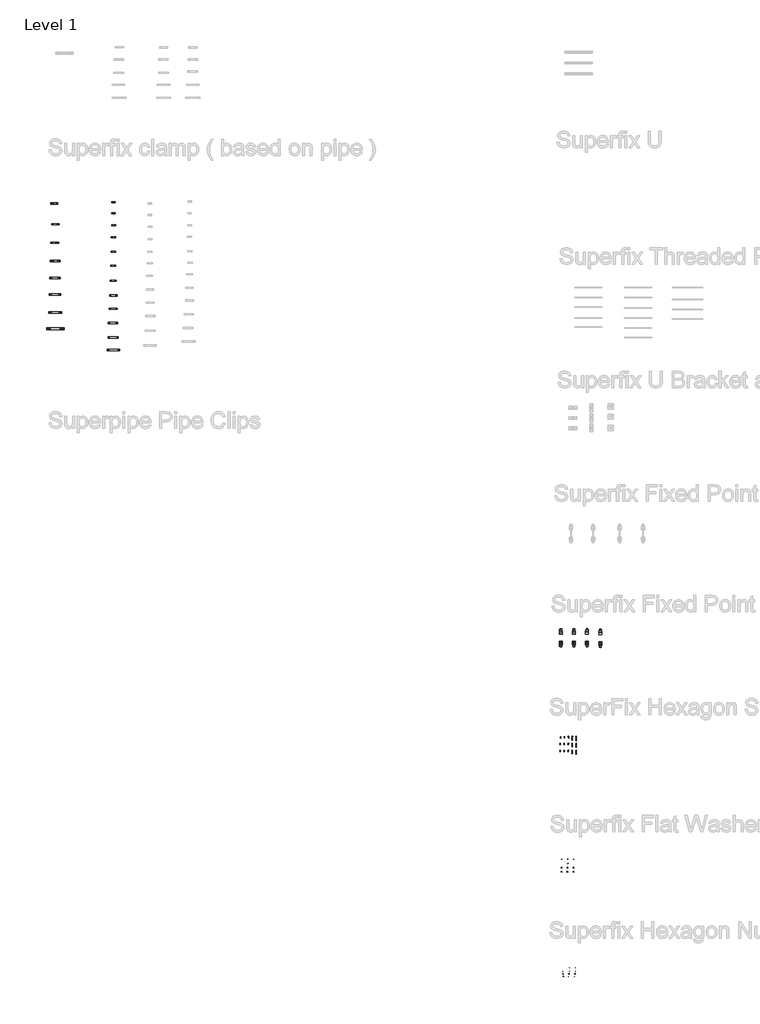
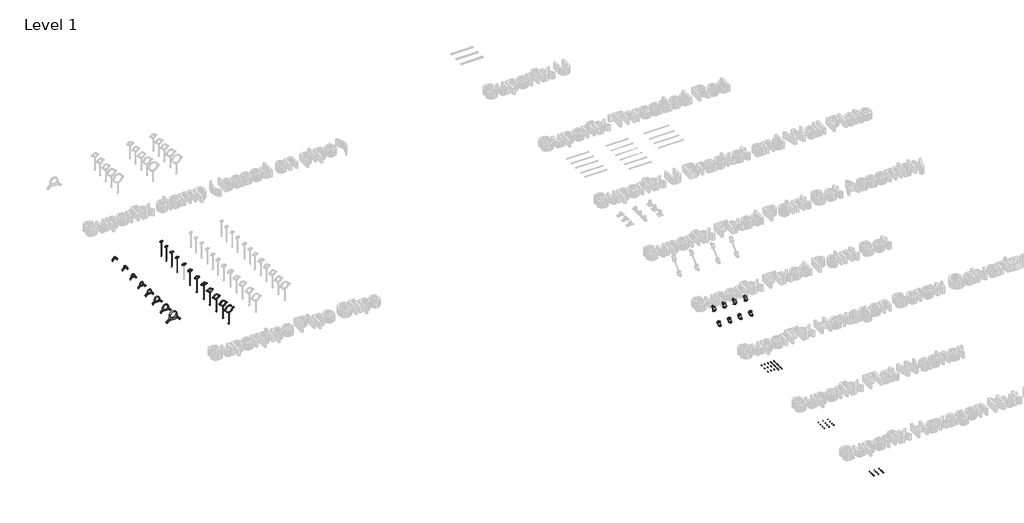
# One storey, part 1 of 32: 134 valves.
"""IFC4 building model written with IfcOpenShell, lengths in millimetres."""

from ifc_helpers import new_model, si_unit, origin, place, context, project, spatial, transform, mapped, element, save
from components import valve_ba4c3353, valve_329ff7bd, valve_242b7707, valve_2bce42df, valve_227da280, valve_86fbe129, valve_d9922134, valve_bf0c94fa, valve_156802b2, valve_8481dcae, valve_a1d0c0c7, valve_bad40d89, valve_098a9345, valve_1406b70b, valve_9e9896a5, valve_48b51991, valve_4bb747ad, valve_00879f87, valve_4dfea500, valve_dfdcf4a3, valve_42e91783, valve_76fbe92c, valve_45f2bd6e, valve_fad8a5b8, valve_cdfc1e77, valve_200e7f54, valve_540cf7b6, valve_e615a615, valve_7771d33f, valve_f58c43d9, valve_0564cfff, valve_fe5dbaab, valve_6bdfe2ac, valve_8158eccd, valve_7bf5ca46, valve_831f7485, valve_ca73bad7, hexagon_nut_galvanized_extra_m10_fcef541f, hexagon_nut_galvanized_extra_m6_d26f8cee, hexagon_nut_galvanized_extra_m8_53389388, superfix_hexagon_screw_galvanized_e39b877e, superfix_hexagon_screw_galvanized_3ef5af78, superfix_hexagon_screw_galvanized_3d7df342, superfix_hexagon_screw_galvanized_3348ddcd, superfix_hexagon_screw_galvanized_39733bb5

model = new_model("IFC4")

# Units and contexts
model_context = context("Model", 3, world=origin())
ifc_project = project(units=[si_unit("LENGTHUNIT", "METRE", prefix="MILLI")], contexts=[model_context])

# Site, building, storey
site = spatial("IfcSite", under=ifc_project)
building = spatial("IfcBuilding", under=site)
storey = spatial("IfcBuildingStorey", under=building, Name="Level 1", Elevation=0.0)

# Valves
placement = place(None, origin())
valve_shape = valve_ba4c3353(model_context)
element("IfcValve", 1, ObjectType="Superfix Fixed point set Extra : Superfix Fixed Point Set Extra M8", at=placement, inside=storey, context=model_context, shape_type="MappedRepresentation", body=[
    mapped(valve_shape, transform((-39904.8924708, 15856.5645356, 0.0), x_axis=(1.0, 0.0, 0.0), y_axis=(0.0, 1.0, 0.0), z_axis=(0.0, 0.0, 1.0))),
])
element("IfcValve", 2, ObjectType="Superfix Fixed point set Extra : Superfix Fixed Point Set Extra M10", at=placement, inside=storey, context=model_context, shape_type="MappedRepresentation", body=[
    mapped(valve_shape, transform((-39659.3870899, 15846.5645356, 0.0), x_axis=(1.0, 0.0, 0.0), y_axis=(0.0, 1.0, 0.0), z_axis=(0.0, 0.0, 1.0))),
])
element("IfcValve", 3, ObjectType="Superfix Fixed point set : Superfix Fixed Point Set M8", at=placement, inside=storey, context=model_context, shape_type="MappedRepresentation", body=[
    mapped(valve_shape, transform((-40384.724842, 15852.330252, 0.0), x_axis=(1.0, 0.0, 0.0), y_axis=(0.0, 1.0, 0.0), z_axis=(0.0, 0.0, 1.0))),
])
element("IfcValve", 4, ObjectType="Superfix Fixed point set : Superfix Fixed Point Set M10", at=placement, inside=storey, context=model_context, shape_type="MappedRepresentation", body=[
    mapped(valve_shape, transform((-40145.0429712, 15852.330252, 0.0), x_axis=(1.0, 0.0, 0.0), y_axis=(0.0, 1.0, 0.0), z_axis=(0.0, 0.0, 1.0))),
])
valve_2_shape = valve_329ff7bd(model_context)
element("IfcValve", 5, ObjectType="Superfix DG3 Clamp (based on pipe) : Superfix DG3 Clamp (based on pipe)", at=placement, inside=storey, context=model_context, shape_type="MappedRepresentation", body=[
    mapped(valve_2_shape, transform((-49655.2065836, 23582.1247132, -55.0), x_axis=(0.0, -1.0, 0.0), y_axis=(1.0, 0.0, 0.0), z_axis=(0.0, 0.0, 1.0))),
])
valve_3_shape = valve_242b7707(model_context)
element("IfcValve", 6, ObjectType="Superfix DG3 Clamp (based on pipe) : Superfix DG3 Clamp (based on pipe)", at=placement, inside=storey, context=model_context, shape_type="MappedRepresentation", body=[
    mapped(valve_3_shape, transform((-49665.8599062, 23243.0827202, -60.5), x_axis=(0.0, -1.0, 0.0), y_axis=(1.0, 0.0, 0.0), z_axis=(0.0, 0.0, 1.0))),
])
valve_4_shape = valve_2bce42df(model_context)
element("IfcValve", 7, ObjectType="Superfix DG3 Clamp (based on pipe) : Superfix DG3 Clamp (based on pipe)", at=placement, inside=storey, context=model_context, shape_type="MappedRepresentation", body=[
    mapped(valve_4_shape, transform((-49659.6650683, 22909.7980168, -71.5), x_axis=(0.0, -1.0, 0.0), y_axis=(1.0, 0.0, 0.0), z_axis=(0.0, 0.0, 1.0))),
])
valve_5_shape = valve_227da280(model_context)
element("IfcValve", 8, ObjectType="Superfix DG3 Clamp (based on pipe) : Superfix DG3 Clamp (based on pipe)", at=placement, inside=storey, context=model_context, shape_type="MappedRepresentation", body=[
    mapped(valve_5_shape, transform((-49661.8649102, 22599.0893667, -76.0), x_axis=(0.0, -1.0, 0.0), y_axis=(1.0, 0.0, 0.0), z_axis=(0.0, 0.0, 1.0))),
])
valve_6_shape = valve_86fbe129(model_context)
element("IfcValve", 9, ObjectType="Superfix DG3 Clamp (based on pipe) : Superfix DG3 Clamp (based on pipe)", at=placement, inside=storey, context=model_context, shape_type="MappedRepresentation", body=[
    mapped(valve_6_shape, transform((-49660.0353179, 22296.7897571, -90.0), x_axis=(0.0, -1.0, 0.0), y_axis=(1.0, 0.0, 0.0), z_axis=(0.0, 0.0, 1.0))),
])
valve_7_shape = valve_d9922134(model_context)
element("IfcValve", 10, ObjectType="Superfix DG3 Clamp (based on pipe) : Superfix DG3 Clamp (based on pipe)", at=placement, inside=storey, context=model_context, shape_type="MappedRepresentation", body=[
    mapped(valve_7_shape, transform((-49654.0759378, 21966.8028344, -94.5), x_axis=(0.0, -1.0, 0.0), y_axis=(1.0, 0.0, 0.0), z_axis=(0.0, 0.0, 1.0))),
])
valve_8_shape = valve_bf0c94fa(model_context)
element("IfcValve", 11, ObjectType="Superfix DG3 Clamp (based on pipe) : Superfix DG3 Clamp (based on pipe)", at=placement, inside=storey, context=model_context, shape_type="MappedRepresentation", body=[
    mapped(valve_8_shape, transform((-49652.8748845, 21664.7021798, -144.75), x_axis=(0.0, -1.0, 0.0), y_axis=(1.0, 0.0, 0.0), z_axis=(0.0, 0.0, 1.0))),
])
valve_9_shape = valve_156802b2(model_context)
element("IfcValve", 12, ObjectType="Superfix DG2 Clamp (based on pipe) : Superfix DG2 Clamp (based on pipe)", at=placement, inside=storey, context=model_context, shape_type="MappedRepresentation", body=[
    mapped(valve_9_shape, transform((-48586.8637553, 23986.908282, -358.5002332), x_axis=(0.0, -1.0, 0.0), y_axis=(1.0, 0.0, 0.0), z_axis=(0.0, 0.0, 1.0))),
])
valve_10_shape = valve_8481dcae(model_context)
element("IfcValve", 13, ObjectType="Superfix DG2 Clamp (based on pipe) : Superfix DG2 Clamp (based on pipe)", at=placement, inside=storey, context=model_context, shape_type="MappedRepresentation", body=[
    mapped(valve_10_shape, transform((-48586.8637553, 23786.908282, -358.5002332), x_axis=(0.0, -1.0, 0.0), y_axis=(1.0, 0.0, 0.0), z_axis=(0.0, 0.0, 1.0))),
])
valve_11_shape = valve_a1d0c0c7(model_context)
element("IfcValve", 14, ObjectType="Superfix DG2 Clamp (based on pipe) : Superfix DG2 Clamp (based on pipe)", at=placement, inside=storey, context=model_context, shape_type="MappedRepresentation", body=[
    mapped(valve_11_shape, transform((-48586.8637553, 23566.908282, -358.5002332), x_axis=(0.0, -1.0, 0.0), y_axis=(1.0, 0.0, 0.0), z_axis=(0.0, 0.0, 1.0))),
])
valve_12_shape = valve_bad40d89(model_context)
element("IfcValve", 15, ObjectType="Superfix DG2 Clamp (based on pipe) : Superfix DG2 Clamp (based on pipe)", at=placement, inside=storey, context=model_context, shape_type="MappedRepresentation", body=[
    mapped(valve_12_shape, transform((-48587.8479527, 23347.730189, -358.5002332), x_axis=(0.0, -1.0, 0.0), y_axis=(1.0, 0.0, 0.0), z_axis=(0.0, 0.0, 1.0))),
])
valve_13_shape = valve_098a9345(model_context)
element("IfcValve", 16, ObjectType="Superfix DG2 Clamp (based on pipe) : Superfix DG2 Clamp (based on pipe)", at=placement, inside=storey, context=model_context, shape_type="MappedRepresentation", body=[
    mapped(valve_13_shape, transform((-48587.8479527, 23076.5844736, -358.5002332), x_axis=(0.0, -1.0, 0.0), y_axis=(1.0, 0.0, 0.0), z_axis=(0.0, 0.0, 1.0))),
])
valve_14_shape = valve_1406b70b(model_context)
element("IfcValve", 17, ObjectType="Superfix DG2 Clamp (based on pipe) : Superfix DG2 Clamp (based on pipe)", at=placement, inside=storey, context=model_context, shape_type="MappedRepresentation", body=[
    mapped(valve_14_shape, transform((-48595.5949731, 22824.8063093, -358.5002332), x_axis=(0.0, -1.0, 0.0), y_axis=(1.0, 0.0, 0.0), z_axis=(0.0, 0.0, 1.0))),
])
valve_15_shape = valve_9e9896a5(model_context)
element("IfcValve", 18, ObjectType="Superfix DG2 Clamp (based on pipe) : Superfix DG2 Clamp (based on pipe)", at=placement, inside=storey, context=model_context, shape_type="MappedRepresentation", body=[
    mapped(valve_15_shape, transform((-48595.5949731, 22545.9135735, -358.5002332), x_axis=(0.0, -1.0, 0.0), y_axis=(1.0, 0.0, 0.0), z_axis=(0.0, 0.0, 1.0))),
])
valve_16_shape = valve_48b51991(model_context)
element("IfcValve", 19, ObjectType="Superfix DG2 Clamp (based on pipe) : Superfix DG2 Clamp (based on pipe)", at=placement, inside=storey, context=model_context, shape_type="MappedRepresentation", body=[
    mapped(valve_16_shape, transform((-48589.949332, 22277.3340586, -358.5002332), x_axis=(0.0, -1.0, 0.0), y_axis=(1.0, 0.0, 0.0), z_axis=(0.0, 0.0, 1.0))),
])
valve_17_shape = valve_4bb747ad(model_context)
element("IfcValve", 20, ObjectType="Superfix DG2 Clamp (based on pipe) : Superfix DG2 Clamp (based on pipe)", at=placement, inside=storey, context=model_context, shape_type="MappedRepresentation", body=[
    mapped(valve_17_shape, transform((-48593.3584006, 22035.1740444, -358.5002332), x_axis=(0.0, -1.0, 0.0), y_axis=(1.0, 0.0, 0.0), z_axis=(0.0, 0.0, 1.0))),
])
valve_18_shape = valve_00879f87(model_context)
element("IfcValve", 21, ObjectType="Superfix DG2 Clamp (based on pipe) : Superfix DG2 Clamp (based on pipe)", at=placement, inside=storey, context=model_context, shape_type="MappedRepresentation", body=[
    mapped(valve_18_shape, transform((-48596.7266704, 21772.4490034, -358.5002332), x_axis=(0.0, -1.0, 0.0), y_axis=(1.0, 0.0, 0.0), z_axis=(0.0, 0.0, 1.0))),
])
valve_19_shape = valve_4dfea500(model_context)
element("IfcValve", 22, ObjectType="Superfix DG2 Clamp (based on pipe) : Superfix DG2 Clamp (based on pipe)", at=placement, inside=storey, context=model_context, shape_type="MappedRepresentation", body=[
    mapped(valve_19_shape, transform((-48593.3584006, 21506.3556927, -358.5002332), x_axis=(0.0, -1.0, 0.0), y_axis=(1.0, 0.0, 0.0), z_axis=(0.0, 0.0, 1.0))),
])
valve_20_shape = valve_dfdcf4a3(model_context)
element("IfcValve", 23, ObjectType="Superfix DG2 Clamp (based on pipe) : Superfix DG2 Clamp (based on pipe)", at=placement, inside=storey, context=model_context, shape_type="MappedRepresentation", body=[
    mapped(valve_20_shape, transform((-48589.9901309, 21277.3133492, -358.5002332), x_axis=(0.0, -1.0, 0.0), y_axis=(1.0, 0.0, 0.0), z_axis=(0.0, 0.0, 1.0))),
])
valve_21_shape = valve_42e91783(model_context)
element("IfcValve", 24, ObjectType="Superfix Hexagon Nut Galvanized : Hexagon Nut Galvanized Extra +  M4", at=placement, inside=storey, context=model_context, shape_type="MappedRepresentation", body=[
    mapped(valve_21_shape, transform((-40124.9228397, 9958.5414116, 0.0), x_axis=(1.0, 0.0, 0.0), y_axis=(0.0, 1.0, 0.0), z_axis=(0.0, 0.0, 1.0))),
])
valve_22_shape = valve_76fbe92c(model_context)
element("IfcValve", 25, ObjectType="Superfix Flat Washer : Superfix Flat Washer M4x10x1", at=placement, inside=storey, context=model_context, shape_type="MappedRepresentation", body=[
    mapped(valve_22_shape, transform((-40371.2019448, 11954.2243962, 0.0), x_axis=(1.0, 0.0, 0.0), y_axis=(0.0, 1.0, 0.0), z_axis=(0.0, 0.0, 1.0))),
])
valve_23_shape = valve_45f2bd6e(model_context)
element("IfcValve", 26, ObjectType="Superfix Flat Washer : Superfix Flat Washer M6x15x1", at=placement, inside=storey, context=model_context, shape_type="MappedRepresentation", body=[
    mapped(valve_23_shape, transform((-40371.2019448, 11869.0629615, 0.0), x_axis=(1.0, 0.0, 0.0), y_axis=(0.0, 1.0, 0.0), z_axis=(0.0, 0.0, 1.0))),
])
valve_24_shape = valve_fad8a5b8(model_context)
element("IfcValve", 27, ObjectType="Superfix Flat Washer : Superfix Flat Washer M8x15x1.5", at=placement, inside=storey, context=model_context, shape_type="MappedRepresentation", body=[
    mapped(valve_24_shape, transform((-40371.2019448, 11790.580855, 0.0), x_axis=(1.0, 0.0, 0.0), y_axis=(0.0, 1.0, 0.0), z_axis=(0.0, 0.0, 1.0))),
])
element("IfcValve", 28, ObjectType="Superfix Flat Washer : Superfix Flat Washer M8x15x1.5", at=placement, inside=storey, context=model_context, shape_type="MappedRepresentation", body=[
    mapped(valve_24_shape, transform((-48595.5949731, 22824.8063093, -360.1002332), x_axis=(0.0, -1.0, 0.0), y_axis=(1.0, 0.0, 0.0), z_axis=(0.0, 0.0, 1.0))),
])
element("IfcValve", 29, ObjectType="Superfix Flat Washer : Superfix Flat Washer M8x15x1.5", at=placement, inside=storey, context=model_context, shape_type="MappedRepresentation", body=[
    mapped(valve_24_shape, transform((-48595.5949731, 22824.8063093, -355.5002332), x_axis=(0.0, -1.0, 0.0), y_axis=(1.0, 0.0, 0.0), z_axis=(0.0, 0.0, 1.0))),
])
valve_25_shape = valve_cdfc1e77(model_context)
element("IfcValve", 30, ObjectType="Superfix Flat Washer : Superfix Flat Washer M10x20x1.5", at=placement, inside=storey, context=model_context, shape_type="MappedRepresentation", body=[
    mapped(valve_25_shape, transform((-48595.5949731, 22545.9135735, -360.5002332), x_axis=(0.0, -1.0, 0.0), y_axis=(1.0, 0.0, 0.0), z_axis=(0.0, 0.0, 1.0))),
])
element("IfcValve", 31, ObjectType="Superfix Flat Washer : Superfix Flat Washer M10x20x1.5", at=placement, inside=storey, context=model_context, shape_type="MappedRepresentation", body=[
    mapped(valve_25_shape, transform((-48595.5949731, 22545.9135735, -355.5002332), x_axis=(0.0, -1.0, 0.0), y_axis=(1.0, 0.0, 0.0), z_axis=(0.0, 0.0, 1.0))),
])
element("IfcValve", 32, ObjectType="Superfix Flat Washer : Superfix Flat Washer M10x20x1.5", at=placement, inside=storey, context=model_context, shape_type="MappedRepresentation", body=[
    mapped(valve_25_shape, transform((-48589.949332, 22277.3340586, -360.5002332), x_axis=(0.0, -1.0, 0.0), y_axis=(1.0, 0.0, 0.0), z_axis=(0.0, 0.0, 1.0))),
])
element("IfcValve", 33, ObjectType="Superfix Flat Washer : Superfix Flat Washer M10x20x1.5", at=placement, inside=storey, context=model_context, shape_type="MappedRepresentation", body=[
    mapped(valve_25_shape, transform((-48589.949332, 22277.3340586, -355.5002332), x_axis=(0.0, -1.0, 0.0), y_axis=(1.0, 0.0, 0.0), z_axis=(0.0, 0.0, 1.0))),
])
element("IfcValve", 34, ObjectType="Superfix Flat Washer : Superfix Flat Washer M10x20x1.5", at=placement, inside=storey, context=model_context, shape_type="MappedRepresentation", body=[
    mapped(valve_25_shape, transform((-48593.3584006, 22035.1740444, -360.5002332), x_axis=(0.0, -1.0, 0.0), y_axis=(1.0, 0.0, 0.0), z_axis=(0.0, 0.0, 1.0))),
])
element("IfcValve", 35, ObjectType="Superfix Flat Washer : Superfix Flat Washer M10x20x1.5", at=placement, inside=storey, context=model_context, shape_type="MappedRepresentation", body=[
    mapped(valve_25_shape, transform((-48593.3584006, 22035.1740444, -355.5002332), x_axis=(0.0, -1.0, 0.0), y_axis=(1.0, 0.0, 0.0), z_axis=(0.0, 0.0, 1.0))),
])
element("IfcValve", 36, ObjectType="Superfix Flat Washer : Superfix Flat Washer M10x20x1.5", at=placement, inside=storey, context=model_context, shape_type="MappedRepresentation", body=[
    mapped(valve_25_shape, transform((-48596.7266704, 21772.4490034, -360.5002332), x_axis=(0.0, -1.0, 0.0), y_axis=(1.0, 0.0, 0.0), z_axis=(0.0, 0.0, 1.0))),
])
element("IfcValve", 37, ObjectType="Superfix Flat Washer : Superfix Flat Washer M10x20x1.5", at=placement, inside=storey, context=model_context, shape_type="MappedRepresentation", body=[
    mapped(valve_25_shape, transform((-48596.7266704, 21772.4490034, -355.5002332), x_axis=(0.0, -1.0, 0.0), y_axis=(1.0, 0.0, 0.0), z_axis=(0.0, 0.0, 1.0))),
])
element("IfcValve", 38, ObjectType="Superfix Flat Washer : Superfix Flat Washer M10x20x1.5", at=placement, inside=storey, context=model_context, shape_type="MappedRepresentation", body=[
    mapped(valve_25_shape, transform((-48593.3584006, 21506.3556927, -360.5002332), x_axis=(0.0, -1.0, 0.0), y_axis=(1.0, 0.0, 0.0), z_axis=(0.0, 0.0, 1.0))),
])
element("IfcValve", 39, ObjectType="Superfix Flat Washer : Superfix Flat Washer M10x20x1.5", at=placement, inside=storey, context=model_context, shape_type="MappedRepresentation", body=[
    mapped(valve_25_shape, transform((-48593.3584006, 21506.3556927, -355.5002332), x_axis=(0.0, -1.0, 0.0), y_axis=(1.0, 0.0, 0.0), z_axis=(0.0, 0.0, 1.0))),
])
element("IfcValve", 40, ObjectType="Superfix Flat Washer : Superfix Flat Washer M10x20x1.5", at=placement, inside=storey, context=model_context, shape_type="MappedRepresentation", body=[
    mapped(valve_25_shape, transform((-48589.9901309, 21277.3133492, -360.5002332), x_axis=(0.0, -1.0, 0.0), y_axis=(1.0, 0.0, 0.0), z_axis=(0.0, 0.0, 1.0))),
])
element("IfcValve", 41, ObjectType="Superfix Flat Washer : Superfix Flat Washer M10x20x1.5", at=placement, inside=storey, context=model_context, shape_type="MappedRepresentation", body=[
    mapped(valve_25_shape, transform((-48589.9901309, 21277.3133492, -355.5002332), x_axis=(0.0, -1.0, 0.0), y_axis=(1.0, 0.0, 0.0), z_axis=(0.0, 0.0, 1.0))),
])
element("IfcValve", 42, ObjectType="Superfix Flat Washer : Superfix Flat Washer M10x20x1.5", at=placement, inside=storey, context=model_context, shape_type="MappedRepresentation", body=[
    mapped(valve_25_shape, transform((-40371.2019448, 11717.1082447, 0.0), x_axis=(1.0, 0.0, 0.0), y_axis=(0.0, 1.0, 0.0), z_axis=(0.0, 0.0, 1.0))),
])
element("IfcValve", 43, ObjectType="Superfix Flat Washer : Superfix Flat Washer Extra M4x10x1", at=placement, inside=storey, context=model_context, shape_type="MappedRepresentation", body=[
    mapped(valve_22_shape, transform((-40262.6628613, 11954.2243962, 0.0), x_axis=(1.0, 0.0, 0.0), y_axis=(0.0, 1.0, 0.0), z_axis=(0.0, 0.0, 1.0))),
])
element("IfcValve", 44, ObjectType="Superfix Flat Washer : Superfix Flat Washer Extra M6x15x1", at=placement, inside=storey, context=model_context, shape_type="MappedRepresentation", body=[
    mapped(valve_23_shape, transform((-40256.4013641, 11869.0629615, 0.0), x_axis=(1.0, 0.0, 0.0), y_axis=(0.0, 1.0, 0.0), z_axis=(0.0, 0.0, 1.0))),
])
element("IfcValve", 45, ObjectType="Superfix Flat Washer : Superfix Flat Washer Extra M8x15x1.5", at=placement, inside=storey, context=model_context, shape_type="MappedRepresentation", body=[
    mapped(valve_24_shape, transform((-40262.6628613, 11790.580855, 0.0), x_axis=(1.0, 0.0, 0.0), y_axis=(0.0, 1.0, 0.0), z_axis=(0.0, 0.0, 1.0))),
])
element("IfcValve", 46, ObjectType="Superfix Flat Washer : Superfix Flat Washer EXtra M10x20x1.5", at=placement, inside=storey, context=model_context, shape_type="MappedRepresentation", body=[
    mapped(valve_25_shape, transform((-40262.6628613, 11717.1082447, 0.0), x_axis=(1.0, 0.0, 0.0), y_axis=(0.0, 1.0, 0.0), z_axis=(0.0, 0.0, 1.0))),
])
element("IfcValve", 47, ObjectType="Superfix Flat Washer : Superfix Flat Washer Extra +  M8x15x1.5", at=placement, inside=storey, context=model_context, shape_type="MappedRepresentation", body=[
    mapped(valve_24_shape, transform((-40151.4013641, 11790.580855, 0.0), x_axis=(1.0, 0.0, 0.0), y_axis=(0.0, 1.0, 0.0), z_axis=(0.0, 0.0, 1.0))),
])
element("IfcValve", 48, ObjectType="Superfix Flat Washer : Superfix Flat Washer Extra +  M6x15x1", at=placement, inside=storey, context=model_context, shape_type="MappedRepresentation", body=[
    mapped(valve_23_shape, transform((-40151.4013641, 11869.0629615, 0.0), x_axis=(1.0, 0.0, 0.0), y_axis=(0.0, 1.0, 0.0), z_axis=(0.0, 0.0, 1.0))),
])
element("IfcValve", 49, ObjectType="Superfix Flat Washer : Superfix Flat Washer Extra + M4x10x1", at=placement, inside=storey, context=model_context, shape_type="MappedRepresentation", body=[
    mapped(valve_22_shape, transform((-40151.4013641, 11954.2243962, 0.0), x_axis=(1.0, 0.0, 0.0), y_axis=(0.0, 1.0, 0.0), z_axis=(0.0, 0.0, 1.0))),
])
element("IfcValve", 50, ObjectType="Superfix Flat Washer : Superfix Flat Washer EXtra +  M10x20x1.5", at=placement, inside=storey, context=model_context, shape_type="MappedRepresentation", body=[
    mapped(valve_25_shape, transform((-40151.4013641, 11717.1082447, 0.0), x_axis=(1.0, 0.0, 0.0), y_axis=(0.0, 1.0, 0.0), z_axis=(0.0, 0.0, 1.0))),
])
valve_26_shape = valve_200e7f54(model_context)
element("IfcValve", 51, ObjectType="Superfix DG3 Clamp (based on pipe) : Superfix DG3 Clamp (based on pipe)", at=placement, inside=storey, context=model_context, shape_type="MappedRepresentation", body=[
    mapped(valve_26_shape, transform((-49671.9855668, 23963.5136636, -47.0), x_axis=(0.0, -1.0, 0.0), y_axis=(1.0, 0.0, 0.0), z_axis=(0.0, 0.0, 1.0))),
])
valve_27_shape = valve_540cf7b6(model_context)
element("IfcValve", 52, ObjectType="Superfix Threaded Rod (used for clamps) : Threaded Rod - 1000 mm (used for clamps)", at=placement, inside=storey, context=model_context, shape_type="MappedRepresentation", body=[
    mapped(valve_27_shape, transform((-48586.8637553, 23986.908282, -358.5002332), x_axis=(0.0, 0.0, 1.0), y_axis=(-1.0, 0.0, 0.0), z_axis=(0.0, -1.0, 0.0))),
])
valve_28_shape = valve_e615a615(model_context)
element("IfcValve", 53, ObjectType="Superfix Threaded Rod (used for clamps) : Threaded Rod - 1000 mm (used for clamps)", at=placement, inside=storey, context=model_context, shape_type="MappedRepresentation", body=[
    mapped(valve_28_shape, transform((-48586.8637553, 23786.908282, -358.5002332), x_axis=(0.0, 0.0, 1.0), y_axis=(-1.0, 0.0, 0.0), z_axis=(0.0, -1.0, 0.0))),
])
valve_29_shape = valve_7771d33f(model_context)
element("IfcValve", 54, ObjectType="Superfix Threaded Rod (used for clamps) : Threaded Rod - 1000 mm (used for clamps)", at=placement, inside=storey, context=model_context, shape_type="MappedRepresentation", body=[
    mapped(valve_29_shape, transform((-48586.8637553, 23566.908282, -358.5002332), x_axis=(0.0, 0.0, 1.0), y_axis=(-1.0, 0.0, 0.0), z_axis=(0.0, -1.0, 0.0))),
])
valve_30_shape = valve_f58c43d9(model_context)
element("IfcValve", 55, ObjectType="Superfix Threaded Rod (used for clamps) : Threaded Rod - 1000 mm (used for clamps)", at=placement, inside=storey, context=model_context, shape_type="MappedRepresentation", body=[
    mapped(valve_30_shape, transform((-48587.8479527, 23347.730189, -358.5002332), x_axis=(0.0, 0.0, 1.0), y_axis=(-1.0, 0.0, 0.0), z_axis=(0.0, -1.0, 0.0))),
])
valve_31_shape = valve_0564cfff(model_context)
element("IfcValve", 56, ObjectType="Superfix Threaded Rod (used for clamps) : Threaded Rod - 1000 mm (used for clamps)", at=placement, inside=storey, context=model_context, shape_type="MappedRepresentation", body=[
    mapped(valve_31_shape, transform((-48595.5949731, 22824.8063093, -358.5002332), x_axis=(0.0, 0.0, 1.0), y_axis=(-1.0, 0.0, 0.0), z_axis=(0.0, -1.0, 0.0))),
])
valve_32_shape = valve_fe5dbaab(model_context)
element("IfcValve", 57, ObjectType="Superfix Threaded Rod (used for clamps) : Threaded Rod - 1000 mm (used for clamps)", at=placement, inside=storey, context=model_context, shape_type="MappedRepresentation", body=[
    mapped(valve_32_shape, transform((-48595.5949731, 22545.9135735, -358.5002332), x_axis=(0.0, 0.0, 1.0), y_axis=(-1.0, 0.0, 0.0), z_axis=(0.0, -1.0, 0.0))),
])
valve_33_shape = valve_6bdfe2ac(model_context)
element("IfcValve", 58, ObjectType="Superfix Threaded Rod (used for clamps) : Threaded Rod - 1000 mm (used for clamps)", at=placement, inside=storey, context=model_context, shape_type="MappedRepresentation", body=[
    mapped(valve_33_shape, transform((-48589.949332, 22277.3340586, -358.5002332), x_axis=(0.0, 0.0, 1.0), y_axis=(-1.0, 0.0, 0.0), z_axis=(0.0, -1.0, 0.0))),
])
valve_34_shape = valve_8158eccd(model_context)
element("IfcValve", 59, ObjectType="Superfix Threaded Rod (used for clamps) : Threaded Rod - 1000 mm (used for clamps)", at=placement, inside=storey, context=model_context, shape_type="MappedRepresentation", body=[
    mapped(valve_34_shape, transform((-48593.3584006, 22035.1740444, -358.5002332), x_axis=(0.0, 0.0, 1.0), y_axis=(-1.0, 0.0, 0.0), z_axis=(0.0, -1.0, 0.0))),
])
valve_35_shape = valve_7bf5ca46(model_context)
element("IfcValve", 60, ObjectType="Superfix Threaded Rod (used for clamps) : Threaded Rod - 1000 mm (used for clamps)", at=placement, inside=storey, context=model_context, shape_type="MappedRepresentation", body=[
    mapped(valve_35_shape, transform((-48596.7266704, 21772.4490034, -358.5002332), x_axis=(0.0, 0.0, 1.0), y_axis=(-1.0, 0.0, 0.0), z_axis=(0.0, -1.0, 0.0))),
])
valve_36_shape = valve_831f7485(model_context)
element("IfcValve", 61, ObjectType="Superfix Threaded Rod (used for clamps) : Threaded Rod - 1000 mm (used for clamps)", at=placement, inside=storey, context=model_context, shape_type="MappedRepresentation", body=[
    mapped(valve_36_shape, transform((-48593.3584006, 21506.3556927, -358.5002332), x_axis=(0.0, 0.0, 1.0), y_axis=(-1.0, 0.0, 0.0), z_axis=(0.0, -1.0, 0.0))),
])
valve_37_shape = valve_ca73bad7(model_context)
element("IfcValve", 62, ObjectType="Superfix Threaded Rod (used for clamps) : Threaded Rod - 1000 mm (used for clamps)", at=placement, inside=storey, context=model_context, shape_type="MappedRepresentation", body=[
    mapped(valve_37_shape, transform((-48589.9901309, 21277.3133492, -358.5002332), x_axis=(0.0, 0.0, 1.0), y_axis=(-1.0, 0.0, 0.0), z_axis=(0.0, -1.0, 0.0))),
])
hexagon_nut_galvanized_extra_m10_shape = hexagon_nut_galvanized_extra_m10_fcef541f(model_context)
element("IfcValve", 63, ObjectType="Superfix Hexagon Nut Galvanized : Hexagon Nut Galvanized Extra + M10", at=placement, inside=storey, context=model_context, shape_type="MappedRepresentation", body=[
    mapped(hexagon_nut_galvanized_extra_m10_shape, transform((-40124.9228397, 9789.0207855, 0.0), x_axis=(1.0, 0.0, 0.0), y_axis=(0.0, 1.0, 0.0), z_axis=(0.0, 0.0, 1.0))),
])
hexagon_nut_galvanized_extra_m6_shape = hexagon_nut_galvanized_extra_m6_d26f8cee(model_context)
element("IfcValve", 64, ObjectType="Superfix Hexagon Nut Galvanized : Hexagon Nut Galvanized Extra + M6", at=placement, inside=storey, context=model_context, shape_type="MappedRepresentation", body=[
    mapped(hexagon_nut_galvanized_extra_m6_shape, transform((-40124.9228397, 9900.9991353, 0.0), x_axis=(1.0, 0.0, 0.0), y_axis=(0.0, 1.0, 0.0), z_axis=(0.0, 0.0, 1.0))),
])
hexagon_nut_galvanized_extra_m8_shape = hexagon_nut_galvanized_extra_m8_53389388(model_context)
element("IfcValve", 65, ObjectType="Superfix Hexagon Nut Galvanized : Hexagon Nut Galvanized Extra +M8", at=placement, inside=storey, context=model_context, shape_type="MappedRepresentation", body=[
    mapped(hexagon_nut_galvanized_extra_m8_shape, transform((-40124.9228397, 9849.0207855, 0.0), x_axis=(1.0, 0.0, 0.0), y_axis=(0.0, 1.0, 0.0), z_axis=(0.0, 0.0, 1.0))),
])
element("IfcValve", 66, ObjectType="Superfix Hexagon Nut Galvanized : Hexagon Nut Galvanized Extra M10", at=placement, inside=storey, context=model_context, shape_type="MappedRepresentation", body=[
    mapped(hexagon_nut_galvanized_extra_m10_shape, transform((-40234.9228397, 9789.0207855, 0.0), x_axis=(1.0, 0.0, 0.0), y_axis=(0.0, 1.0, 0.0), z_axis=(0.0, 0.0, 1.0))),
])
element("IfcValve", 67, ObjectType="Superfix Hexagon Nut Galvanized : Hexagon Nut Galvanized Extra M4", at=placement, inside=storey, context=model_context, shape_type="MappedRepresentation", body=[
    mapped(valve_21_shape, transform((-40234.9228397, 9958.5414116, 0.0), x_axis=(1.0, 0.0, 0.0), y_axis=(0.0, 1.0, 0.0), z_axis=(0.0, 0.0, 1.0))),
])
element("IfcValve", 68, ObjectType="Superfix Hexagon Nut Galvanized : Hexagon Nut Galvanized Extra M6", at=placement, inside=storey, context=model_context, shape_type="MappedRepresentation", body=[
    mapped(hexagon_nut_galvanized_extra_m6_shape, transform((-40234.9228397, 9900.9991353, 0.0), x_axis=(1.0, 0.0, 0.0), y_axis=(0.0, 1.0, 0.0), z_axis=(0.0, 0.0, 1.0))),
])
element("IfcValve", 69, ObjectType="Superfix Hexagon Nut Galvanized : Hexagon Nut Galvanized Extra M8", at=placement, inside=storey, context=model_context, shape_type="MappedRepresentation", body=[
    mapped(hexagon_nut_galvanized_extra_m8_shape, transform((-40234.9228397, 9849.0207855, 0.0), x_axis=(1.0, 0.0, 0.0), y_axis=(0.0, 1.0, 0.0), z_axis=(0.0, 0.0, 1.0))),
])
element("IfcValve", 70, ObjectType="Superfix Hexagon Nut Galvanized : Hexagon Nut Galvanized M10", at=placement, inside=storey, context=model_context, shape_type="MappedRepresentation", body=[
    mapped(hexagon_nut_galvanized_extra_m10_shape, transform((-48595.5949731, 22545.9135735, -355.5002332), x_axis=(0.0, -1.0, 0.0), y_axis=(1.0, 0.0, 0.0), z_axis=(0.0, 0.0, 1.0))),
])
element("IfcValve", 71, ObjectType="Superfix Hexagon Nut Galvanized : Hexagon Nut Galvanized M10", at=placement, inside=storey, context=model_context, shape_type="MappedRepresentation", body=[
    mapped(hexagon_nut_galvanized_extra_m10_shape, transform((-48595.5949731, 22545.9135735, -366.5002332), x_axis=(0.0, -1.0, 0.0), y_axis=(1.0, 0.0, 0.0), z_axis=(0.0, 0.0, 1.0))),
])
element("IfcValve", 72, ObjectType="Superfix Hexagon Nut Galvanized : Hexagon Nut Galvanized M10", at=placement, inside=storey, context=model_context, shape_type="MappedRepresentation", body=[
    mapped(hexagon_nut_galvanized_extra_m10_shape, transform((-48589.949332, 22277.3340586, -355.5002332), x_axis=(0.0, -1.0, 0.0), y_axis=(1.0, 0.0, 0.0), z_axis=(0.0, 0.0, 1.0))),
])
element("IfcValve", 73, ObjectType="Superfix Hexagon Nut Galvanized : Hexagon Nut Galvanized M10", at=placement, inside=storey, context=model_context, shape_type="MappedRepresentation", body=[
    mapped(hexagon_nut_galvanized_extra_m10_shape, transform((-48589.949332, 22277.3340586, -366.5002332), x_axis=(0.0, -1.0, 0.0), y_axis=(1.0, 0.0, 0.0), z_axis=(0.0, 0.0, 1.0))),
])
element("IfcValve", 74, ObjectType="Superfix Hexagon Nut Galvanized : Hexagon Nut Galvanized M10", at=placement, inside=storey, context=model_context, shape_type="MappedRepresentation", body=[
    mapped(hexagon_nut_galvanized_extra_m10_shape, transform((-48593.3584006, 22035.1740444, -355.5002332), x_axis=(0.0, -1.0, 0.0), y_axis=(1.0, 0.0, 0.0), z_axis=(0.0, 0.0, 1.0))),
])
element("IfcValve", 75, ObjectType="Superfix Hexagon Nut Galvanized : Hexagon Nut Galvanized M10", at=placement, inside=storey, context=model_context, shape_type="MappedRepresentation", body=[
    mapped(hexagon_nut_galvanized_extra_m10_shape, transform((-48593.3584006, 22035.1740444, -366.5002332), x_axis=(0.0, -1.0, 0.0), y_axis=(1.0, 0.0, 0.0), z_axis=(0.0, 0.0, 1.0))),
])
element("IfcValve", 76, ObjectType="Superfix Hexagon Nut Galvanized : Hexagon Nut Galvanized M10", at=placement, inside=storey, context=model_context, shape_type="MappedRepresentation", body=[
    mapped(hexagon_nut_galvanized_extra_m10_shape, transform((-48596.7266704, 21772.4490034, -355.5002332), x_axis=(0.0, -1.0, 0.0), y_axis=(1.0, 0.0, 0.0), z_axis=(0.0, 0.0, 1.0))),
])
element("IfcValve", 77, ObjectType="Superfix Hexagon Nut Galvanized : Hexagon Nut Galvanized M10", at=placement, inside=storey, context=model_context, shape_type="MappedRepresentation", body=[
    mapped(hexagon_nut_galvanized_extra_m10_shape, transform((-48596.7266704, 21772.4490034, -366.5002332), x_axis=(0.0, -1.0, 0.0), y_axis=(1.0, 0.0, 0.0), z_axis=(0.0, 0.0, 1.0))),
])
element("IfcValve", 78, ObjectType="Superfix Hexagon Nut Galvanized : Hexagon Nut Galvanized M10", at=placement, inside=storey, context=model_context, shape_type="MappedRepresentation", body=[
    mapped(hexagon_nut_galvanized_extra_m10_shape, transform((-48593.3584006, 21506.3556927, -355.5002332), x_axis=(0.0, -1.0, 0.0), y_axis=(1.0, 0.0, 0.0), z_axis=(0.0, 0.0, 1.0))),
])
element("IfcValve", 79, ObjectType="Superfix Hexagon Nut Galvanized : Hexagon Nut Galvanized M10", at=placement, inside=storey, context=model_context, shape_type="MappedRepresentation", body=[
    mapped(hexagon_nut_galvanized_extra_m10_shape, transform((-48593.3584006, 21506.3556927, -366.5002332), x_axis=(0.0, -1.0, 0.0), y_axis=(1.0, 0.0, 0.0), z_axis=(0.0, 0.0, 1.0))),
])
element("IfcValve", 80, ObjectType="Superfix Hexagon Nut Galvanized : Hexagon Nut Galvanized M10", at=placement, inside=storey, context=model_context, shape_type="MappedRepresentation", body=[
    mapped(hexagon_nut_galvanized_extra_m10_shape, transform((-48589.9901309, 21277.3133492, -355.5002332), x_axis=(0.0, -1.0, 0.0), y_axis=(1.0, 0.0, 0.0), z_axis=(0.0, 0.0, 1.0))),
])
element("IfcValve", 81, ObjectType="Superfix Hexagon Nut Galvanized : Hexagon Nut Galvanized M10", at=placement, inside=storey, context=model_context, shape_type="MappedRepresentation", body=[
    mapped(hexagon_nut_galvanized_extra_m10_shape, transform((-48589.9901309, 21277.3133492, -366.5002332), x_axis=(0.0, -1.0, 0.0), y_axis=(1.0, 0.0, 0.0), z_axis=(0.0, 0.0, 1.0))),
])
element("IfcValve", 82, ObjectType="Superfix Hexagon Nut Galvanized : Hexagon Nut Galvanized M10", at=placement, inside=storey, context=model_context, shape_type="MappedRepresentation", body=[
    mapped(hexagon_nut_galvanized_extra_m10_shape, transform((-40341.2519312, 9791.7703901, 0.0), x_axis=(1.0, 0.0, 0.0), y_axis=(0.0, 1.0, 0.0), z_axis=(0.0, 0.0, 1.0))),
])
element("IfcValve", 83, ObjectType="Superfix Hexagon Nut Galvanized : Hexagon Nut Galvanized M4", at=placement, inside=storey, context=model_context, shape_type="MappedRepresentation", body=[
    mapped(valve_21_shape, transform((-40341.2519312, 9958.8879013, 0.0), x_axis=(1.0, 0.0, 0.0), y_axis=(0.0, 1.0, 0.0), z_axis=(0.0, 0.0, 1.0))),
])
element("IfcValve", 84, ObjectType="Superfix Hexagon Nut Galvanized : Hexagon Nut Galvanized M6", at=placement, inside=storey, context=model_context, shape_type="MappedRepresentation", body=[
    mapped(hexagon_nut_galvanized_extra_m6_shape, transform((-40341.2519312, 9900.9991353, 0.0), x_axis=(1.0, 0.0, 0.0), y_axis=(0.0, 1.0, 0.0), z_axis=(0.0, 0.0, 1.0))),
])
element("IfcValve", 85, ObjectType="Superfix Hexagon Nut Galvanized : Hexagon Nut Galvanized M8", at=placement, inside=storey, context=model_context, shape_type="MappedRepresentation", body=[
    mapped(hexagon_nut_galvanized_extra_m8_shape, transform((-49726.4855668, 23963.5136636, -47.0), x_axis=(0.0, -1.0, 0.0), y_axis=(-1.0, 0.0, 0.0), z_axis=(0.0, 0.0, -1.0))),
])
element("IfcValve", 86, ObjectType="Superfix Hexagon Nut Galvanized : Hexagon Nut Galvanized M8", at=placement, inside=storey, context=model_context, shape_type="MappedRepresentation", body=[
    mapped(hexagon_nut_galvanized_extra_m8_shape, transform((-49617.4855668, 23963.5136636, -47.0), x_axis=(0.0, -1.0, 0.0), y_axis=(-1.0, 0.0, 0.0), z_axis=(0.0, 0.0, -1.0))),
])
element("IfcValve", 87, ObjectType="Superfix Hexagon Nut Galvanized : Hexagon Nut Galvanized M8", at=placement, inside=storey, context=model_context, shape_type="MappedRepresentation", body=[
    mapped(hexagon_nut_galvanized_extra_m8_shape, transform((-49713.7065836, 23582.1247132, -55.0), x_axis=(0.0, -1.0, 0.0), y_axis=(-1.0, 0.0, 0.0), z_axis=(0.0, 0.0, -1.0))),
])
element("IfcValve", 88, ObjectType="Superfix Hexagon Nut Galvanized : Hexagon Nut Galvanized M8", at=placement, inside=storey, context=model_context, shape_type="MappedRepresentation", body=[
    mapped(hexagon_nut_galvanized_extra_m8_shape, transform((-49596.7065836, 23582.1247132, -55.0), x_axis=(0.0, -1.0, 0.0), y_axis=(-1.0, 0.0, 0.0), z_axis=(0.0, 0.0, -1.0))),
])
element("IfcValve", 89, ObjectType="Superfix Hexagon Nut Galvanized : Hexagon Nut Galvanized M8", at=placement, inside=storey, context=model_context, shape_type="MappedRepresentation", body=[
    mapped(hexagon_nut_galvanized_extra_m8_shape, transform((-49729.6099062, 23243.0827202, -60.5), x_axis=(0.0, -1.0, 0.0), y_axis=(-1.0, 0.0, 0.0), z_axis=(0.0, 0.0, -1.0))),
])
element("IfcValve", 90, ObjectType="Superfix Hexagon Nut Galvanized : Hexagon Nut Galvanized M8", at=placement, inside=storey, context=model_context, shape_type="MappedRepresentation", body=[
    mapped(hexagon_nut_galvanized_extra_m8_shape, transform((-49602.1099062, 23243.0827202, -60.5), x_axis=(0.0, -1.0, 0.0), y_axis=(-1.0, 0.0, 0.0), z_axis=(0.0, 0.0, -1.0))),
])
element("IfcValve", 91, ObjectType="Superfix Hexagon Nut Galvanized : Hexagon Nut Galvanized M8", at=placement, inside=storey, context=model_context, shape_type="MappedRepresentation", body=[
    mapped(hexagon_nut_galvanized_extra_m8_shape, transform((-49738.9150683, 22909.7980168, -71.5), x_axis=(0.0, -1.0, 0.0), y_axis=(-1.0, 0.0, 0.0), z_axis=(0.0, 0.0, -1.0))),
])
element("IfcValve", 92, ObjectType="Superfix Hexagon Nut Galvanized : Hexagon Nut Galvanized M8", at=placement, inside=storey, context=model_context, shape_type="MappedRepresentation", body=[
    mapped(hexagon_nut_galvanized_extra_m8_shape, transform((-49580.4150683, 22909.7980168, -71.5), x_axis=(0.0, -1.0, 0.0), y_axis=(-1.0, 0.0, 0.0), z_axis=(0.0, 0.0, -1.0))),
])
element("IfcValve", 93, ObjectType="Superfix Hexagon Nut Galvanized : Hexagon Nut Galvanized M8", at=placement, inside=storey, context=model_context, shape_type="MappedRepresentation", body=[
    mapped(hexagon_nut_galvanized_extra_m8_shape, transform((-49747.6149102, 22599.0893667, -76.0), x_axis=(0.0, -1.0, 0.0), y_axis=(-1.0, 0.0, 0.0), z_axis=(0.0, 0.0, -1.0))),
])
element("IfcValve", 94, ObjectType="Superfix Hexagon Nut Galvanized : Hexagon Nut Galvanized M8", at=placement, inside=storey, context=model_context, shape_type="MappedRepresentation", body=[
    mapped(hexagon_nut_galvanized_extra_m8_shape, transform((-49576.1149102, 22599.0893667, -76.0), x_axis=(0.0, -1.0, 0.0), y_axis=(-1.0, 0.0, 0.0), z_axis=(0.0, 0.0, -1.0))),
])
element("IfcValve", 95, ObjectType="Superfix Hexagon Nut Galvanized : Hexagon Nut Galvanized M8", at=placement, inside=storey, context=model_context, shape_type="MappedRepresentation", body=[
    mapped(hexagon_nut_galvanized_extra_m8_shape, transform((-49758.0353179, 22296.7897571, -90.0), x_axis=(0.0, -1.0, 0.0), y_axis=(-1.0, 0.0, 0.0), z_axis=(0.0, 0.0, -1.0))),
])
element("IfcValve", 96, ObjectType="Superfix Hexagon Nut Galvanized : Hexagon Nut Galvanized M8", at=placement, inside=storey, context=model_context, shape_type="MappedRepresentation", body=[
    mapped(hexagon_nut_galvanized_extra_m8_shape, transform((-49562.0353179, 22296.7897571, -90.0), x_axis=(0.0, -1.0, 0.0), y_axis=(-1.0, 0.0, 0.0), z_axis=(0.0, 0.0, -1.0))),
])
element("IfcValve", 97, ObjectType="Superfix Hexagon Nut Galvanized : Hexagon Nut Galvanized M8", at=placement, inside=storey, context=model_context, shape_type="MappedRepresentation", body=[
    mapped(hexagon_nut_galvanized_extra_m8_shape, transform((-49759.8259378, 21966.8028344, -94.5), x_axis=(0.0, -1.0, 0.0), y_axis=(-1.0, 0.0, 0.0), z_axis=(0.0, 0.0, -1.0))),
])
element("IfcValve", 98, ObjectType="Superfix Hexagon Nut Galvanized : Hexagon Nut Galvanized M8", at=placement, inside=storey, context=model_context, shape_type="MappedRepresentation", body=[
    mapped(hexagon_nut_galvanized_extra_m8_shape, transform((-49548.3259378, 21966.8028344, -94.5), x_axis=(0.0, -1.0, 0.0), y_axis=(-1.0, 0.0, 0.0), z_axis=(0.0, 0.0, -1.0))),
])
element("IfcValve", 99, ObjectType="Superfix Hexagon Nut Galvanized : Hexagon Nut Galvanized M8", at=placement, inside=storey, context=model_context, shape_type="MappedRepresentation", body=[
    mapped(hexagon_nut_galvanized_extra_m8_shape, transform((-49796.6248845, 21664.7021798, -144.75), x_axis=(0.0, -1.0, 0.0), y_axis=(-1.0, 0.0, 0.0), z_axis=(0.0, 0.0, -1.0))),
])
element("IfcValve", 100, ObjectType="Superfix Hexagon Nut Galvanized : Hexagon Nut Galvanized M8", at=placement, inside=storey, context=model_context, shape_type="MappedRepresentation", body=[
    mapped(hexagon_nut_galvanized_extra_m8_shape, transform((-49509.1248845, 21664.7021798, -144.75), x_axis=(0.0, -1.0, 0.0), y_axis=(-1.0, 0.0, 0.0), z_axis=(0.0, 0.0, -1.0))),
])
element("IfcValve", 101, ObjectType="Superfix Hexagon Nut Galvanized : Hexagon Nut Galvanized M8", at=placement, inside=storey, context=model_context, shape_type="MappedRepresentation", body=[
    mapped(hexagon_nut_galvanized_extra_m8_shape, transform((-40341.2519312, 9849.0207855, 0.0), x_axis=(1.0, 0.0, 0.0), y_axis=(0.0, 1.0, 0.0), z_axis=(0.0, 0.0, 1.0))),
])
element("IfcValve", 102, ObjectType="Superfix Hexagon Nut Galvanized : Hexagon Nut Galvanized M8", at=placement, inside=storey, context=model_context, shape_type="MappedRepresentation", body=[
    mapped(hexagon_nut_galvanized_extra_m8_shape, transform((-48595.5949731, 22824.8063093, -355.5002332), x_axis=(0.0, -1.0, 0.0), y_axis=(1.0, 0.0, 0.0), z_axis=(0.0, 0.0, 1.0))),
])
element("IfcValve", 103, ObjectType="Superfix Hexagon Nut Galvanized : Hexagon Nut Galvanized M8", at=placement, inside=storey, context=model_context, shape_type="MappedRepresentation", body=[
    mapped(hexagon_nut_galvanized_extra_m8_shape, transform((-48595.5949731, 22824.8063093, -365.0002332), x_axis=(0.0, -1.0, 0.0), y_axis=(1.0, 0.0, 0.0), z_axis=(0.0, 0.0, 1.0))),
])
superfix_hexagon_screw_galvanized_shape = superfix_hexagon_screw_galvanized_e39b877e(model_context)
element("IfcValve", 104, ObjectType="SuperFix Hexagon Screw Galvanized : Hexagon Screw Galvanized M8 × 25", at=placement, inside=storey, context=model_context, shape_type="MappedRepresentation", body=[
    mapped(superfix_hexagon_screw_galvanized_shape, transform((-49617.4855668, 23963.5136636, -45.0), x_axis=(-1.0, 0.0, 0.0), y_axis=(0.0, -1.0, 0.0), z_axis=(0.0, 0.0, 1.0))),
])
element("IfcValve", 105, ObjectType="SuperFix Hexagon Screw Galvanized : Hexagon Screw Galvanized M8 × 25", at=placement, inside=storey, context=model_context, shape_type="MappedRepresentation", body=[
    mapped(superfix_hexagon_screw_galvanized_shape, transform((-49726.4855668, 23963.5136636, -45.0), x_axis=(1.0, 0.0, 0.0), y_axis=(0.0, 1.0, 0.0), z_axis=(0.0, 0.0, 1.0))),
])
element("IfcValve", 106, ObjectType="SuperFix Hexagon Screw Galvanized : Hexagon Screw Galvanized M8 × 25", at=placement, inside=storey, context=model_context, shape_type="MappedRepresentation", body=[
    mapped(superfix_hexagon_screw_galvanized_shape, transform((-49596.7065836, 23582.1247132, -53.0), x_axis=(-1.0, 0.0, 0.0), y_axis=(0.0, -1.0, 0.0), z_axis=(0.0, 0.0, 1.0))),
])
element("IfcValve", 107, ObjectType="SuperFix Hexagon Screw Galvanized : Hexagon Screw Galvanized M8 × 25", at=placement, inside=storey, context=model_context, shape_type="MappedRepresentation", body=[
    mapped(superfix_hexagon_screw_galvanized_shape, transform((-49713.7065836, 23582.1247132, -53.0), x_axis=(1.0, 0.0, 0.0), y_axis=(0.0, 1.0, 0.0), z_axis=(0.0, 0.0, 1.0))),
])
element("IfcValve", 108, ObjectType="SuperFix Hexagon Screw Galvanized : Hexagon Screw Galvanized M8 × 25", at=placement, inside=storey, context=model_context, shape_type="MappedRepresentation", body=[
    mapped(superfix_hexagon_screw_galvanized_shape, transform((-49602.1099062, 23243.0827202, -58.5), x_axis=(-1.0, 0.0, 0.0), y_axis=(0.0, -1.0, 0.0), z_axis=(0.0, 0.0, 1.0))),
])
element("IfcValve", 109, ObjectType="SuperFix Hexagon Screw Galvanized : Hexagon Screw Galvanized M8 × 25", at=placement, inside=storey, context=model_context, shape_type="MappedRepresentation", body=[
    mapped(superfix_hexagon_screw_galvanized_shape, transform((-49729.6099062, 23243.0827202, -58.5), x_axis=(1.0, 0.0, 0.0), y_axis=(0.0, 1.0, 0.0), z_axis=(0.0, 0.0, 1.0))),
])
element("IfcValve", 110, ObjectType="SuperFix Hexagon Screw Galvanized : Hexagon Screw Galvanized M8 × 25", at=placement, inside=storey, context=model_context, shape_type="MappedRepresentation", body=[
    mapped(superfix_hexagon_screw_galvanized_shape, transform((-49580.4150683, 22909.7980168, -69.5), x_axis=(-1.0, 0.0, 0.0), y_axis=(0.0, -1.0, 0.0), z_axis=(0.0, 0.0, 1.0))),
])
element("IfcValve", 111, ObjectType="SuperFix Hexagon Screw Galvanized : Hexagon Screw Galvanized M8 × 25", at=placement, inside=storey, context=model_context, shape_type="MappedRepresentation", body=[
    mapped(superfix_hexagon_screw_galvanized_shape, transform((-49738.9150683, 22909.7980168, -69.5), x_axis=(1.0, 0.0, 0.0), y_axis=(0.0, 1.0, 0.0), z_axis=(0.0, 0.0, 1.0))),
])
element("IfcValve", 112, ObjectType="SuperFix Hexagon Screw Galvanized : Hexagon Screw Galvanized M8 × 25", at=placement, inside=storey, context=model_context, shape_type="MappedRepresentation", body=[
    mapped(superfix_hexagon_screw_galvanized_shape, transform((-49576.1149102, 22599.0893667, -74.0), x_axis=(-1.0, 0.0, 0.0), y_axis=(0.0, -1.0, 0.0), z_axis=(0.0, 0.0, 1.0))),
])
element("IfcValve", 113, ObjectType="SuperFix Hexagon Screw Galvanized : Hexagon Screw Galvanized M8 × 25", at=placement, inside=storey, context=model_context, shape_type="MappedRepresentation", body=[
    mapped(superfix_hexagon_screw_galvanized_shape, transform((-49747.6149102, 22599.0893667, -74.0), x_axis=(1.0, 0.0, 0.0), y_axis=(0.0, 1.0, 0.0), z_axis=(0.0, 0.0, 1.0))),
])
element("IfcValve", 114, ObjectType="SuperFix Hexagon Screw Galvanized : Hexagon Screw Galvanized M8 × 25", at=placement, inside=storey, context=model_context, shape_type="MappedRepresentation", body=[
    mapped(superfix_hexagon_screw_galvanized_shape, transform((-49562.0353179, 22296.7897571, -88.0), x_axis=(-1.0, 0.0, 0.0), y_axis=(0.0, -1.0, 0.0), z_axis=(0.0, 0.0, 1.0))),
])
element("IfcValve", 115, ObjectType="SuperFix Hexagon Screw Galvanized : Hexagon Screw Galvanized M8 × 25", at=placement, inside=storey, context=model_context, shape_type="MappedRepresentation", body=[
    mapped(superfix_hexagon_screw_galvanized_shape, transform((-49758.0353179, 22296.7897571, -88.0), x_axis=(1.0, 0.0, 0.0), y_axis=(0.0, 1.0, 0.0), z_axis=(0.0, 0.0, 1.0))),
])
element("IfcValve", 116, ObjectType="SuperFix Hexagon Screw Galvanized : Hexagon Screw Galvanized M8 × 25", at=placement, inside=storey, context=model_context, shape_type="MappedRepresentation", body=[
    mapped(superfix_hexagon_screw_galvanized_shape, transform((-49548.3259378, 21966.8028344, -92.5), x_axis=(-1.0, 0.0, 0.0), y_axis=(0.0, -1.0, 0.0), z_axis=(0.0, 0.0, 1.0))),
])
element("IfcValve", 117, ObjectType="SuperFix Hexagon Screw Galvanized : Hexagon Screw Galvanized M8 × 25", at=placement, inside=storey, context=model_context, shape_type="MappedRepresentation", body=[
    mapped(superfix_hexagon_screw_galvanized_shape, transform((-49759.8259378, 21966.8028344, -92.5), x_axis=(1.0, 0.0, 0.0), y_axis=(0.0, 1.0, 0.0), z_axis=(0.0, 0.0, 1.0))),
])
element("IfcValve", 118, ObjectType="SuperFix Hexagon Screw Galvanized : Hexagon Screw Galvanized M8 × 25", at=placement, inside=storey, context=model_context, shape_type="MappedRepresentation", body=[
    mapped(superfix_hexagon_screw_galvanized_shape, transform((-49509.1248845, 21664.7021798, -142.0), x_axis=(-1.0, 0.0, 0.0), y_axis=(0.0, -1.0, 0.0), z_axis=(0.0, 0.0, 1.0))),
])
element("IfcValve", 119, ObjectType="SuperFix Hexagon Screw Galvanized : Hexagon Screw Galvanized M8 × 25", at=placement, inside=storey, context=model_context, shape_type="MappedRepresentation", body=[
    mapped(superfix_hexagon_screw_galvanized_shape, transform((-49796.6248845, 21664.7021798, -142.0), x_axis=(1.0, 0.0, 0.0), y_axis=(0.0, 1.0, 0.0), z_axis=(0.0, 0.0, 1.0))),
])
element("IfcValve", 120, ObjectType="SuperFix Hexagon Screw Galvanized : Hexagon Screw Galvanized M8 × 25", at=placement, inside=storey, context=model_context, shape_type="MappedRepresentation", body=[
    mapped(superfix_hexagon_screw_galvanized_shape, transform((-40247.3272747, 14066.0393275, 51.0929439), x_axis=(-1.0, 0.0, 0.0), y_axis=(0.0, 0.0, 1.0), z_axis=(0.0, 1.0, 0.0))),
])
superfix_hexagon_screw_galvanized_2_shape = superfix_hexagon_screw_galvanized_3ef5af78(model_context)
element("IfcValve", 121, ObjectType="SuperFix Hexagon Screw Galvanized : Hexagon Screw Galvanized M8 × 60", at=placement, inside=storey, context=model_context, shape_type="MappedRepresentation", body=[
    mapped(superfix_hexagon_screw_galvanized_2_shape, transform((-40177.3272747, 14066.0393275, 51.0929439), x_axis=(-1.0, 0.0, 0.0), y_axis=(0.0, 0.0, 1.0), z_axis=(0.0, 1.0, 0.0))),
])
superfix_hexagon_screw_galvanized_3_shape = superfix_hexagon_screw_galvanized_3d7df342(model_context)
element("IfcValve", 122, ObjectType="SuperFix Hexagon Screw Galvanized : Hexagon Screw Galvanized M8 × 70", at=placement, inside=storey, context=model_context, shape_type="MappedRepresentation", body=[
    mapped(superfix_hexagon_screw_galvanized_3_shape, transform((-40102.3272747, 14066.0393275, 51.0929439), x_axis=(-1.0, 0.0, 0.0), y_axis=(0.0, 0.0, 1.0), z_axis=(0.0, 1.0, 0.0))),
])
element("IfcValve", 123, ObjectType="SuperFix Hexagon Screw Galvanized : Hexagon Screw Galvanized Extra +  M8 × 70", at=placement, inside=storey, context=model_context, shape_type="MappedRepresentation", body=[
    mapped(superfix_hexagon_screw_galvanized_3_shape, transform((-40102.3272747, 13941.0053664, 51.0929439), x_axis=(-1.0, 0.0, 0.0), y_axis=(0.0, 0.0, 1.0), z_axis=(0.0, 1.0, 0.0))),
])
element("IfcValve", 124, ObjectType="SuperFix Hexagon Screw Galvanized : Hexagon Screw Galvanized Extra +  M8 × 60", at=placement, inside=storey, context=model_context, shape_type="MappedRepresentation", body=[
    mapped(superfix_hexagon_screw_galvanized_2_shape, transform((-40177.3272747, 13941.0053664, 51.0929439), x_axis=(-1.0, 0.0, 0.0), y_axis=(0.0, 0.0, 1.0), z_axis=(0.0, 1.0, 0.0))),
])
element("IfcValve", 125, ObjectType="SuperFix Hexagon Screw Galvanized : Hexagon Screw Galvanized Extra +  M8 × 25", at=placement, inside=storey, context=model_context, shape_type="MappedRepresentation", body=[
    mapped(superfix_hexagon_screw_galvanized_shape, transform((-40247.3272747, 13941.0053664, 51.0929439), x_axis=(-1.0, 0.0, 0.0), y_axis=(0.0, 0.0, 1.0), z_axis=(0.0, 1.0, 0.0))),
])
superfix_hexagon_screw_galvanized_4_shape = superfix_hexagon_screw_galvanized_3348ddcd(model_context)
element("IfcValve", 126, ObjectType="SuperFix Hexagon Screw Galvanized : Hexagon Screw Galvanized Extra +  M6 × 25", at=placement, inside=storey, context=model_context, shape_type="MappedRepresentation", body=[
    mapped(superfix_hexagon_screw_galvanized_4_shape, transform((-40321.8888278, 13941.0053664, 51.0929439), x_axis=(-1.0, 0.0, 0.0), y_axis=(0.0, 0.0, 1.0), z_axis=(0.0, 1.0, 0.0))),
])
superfix_hexagon_screw_galvanized_5_shape = superfix_hexagon_screw_galvanized_39733bb5(model_context)
element("IfcValve", 127, ObjectType="SuperFix Hexagon Screw Galvanized : Hexagon Screw Galvanized Extra +  M4 × 25", at=placement, inside=storey, context=model_context, shape_type="MappedRepresentation", body=[
    mapped(superfix_hexagon_screw_galvanized_5_shape, transform((-40396.8888278, 13941.0053664, 51.0929439), x_axis=(-1.0, 0.0, 0.0), y_axis=(0.0, 0.0, 1.0), z_axis=(0.0, 1.0, 0.0))),
])
element("IfcValve", 128, ObjectType="SuperFix Hexagon Screw Galvanized : Hexagon Screw Galvanized Extra  M8 × 70", at=placement, inside=storey, context=model_context, shape_type="MappedRepresentation", body=[
    mapped(superfix_hexagon_screw_galvanized_3_shape, transform((-40104.9927283, 14189.6583726, 51.0929439), x_axis=(-1.0, 0.0, 0.0), y_axis=(0.0, 0.0, 1.0), z_axis=(0.0, 1.0, 0.0))),
])
element("IfcValve", 129, ObjectType="SuperFix Hexagon Screw Galvanized : Hexagon Screw Galvanized Extra  M8 × 60", at=placement, inside=storey, context=model_context, shape_type="MappedRepresentation", body=[
    mapped(superfix_hexagon_screw_galvanized_2_shape, transform((-40174.3707947, 14189.6583726, 51.0929439), x_axis=(-1.0, 0.0, 0.0), y_axis=(0.0, 0.0, 1.0), z_axis=(0.0, 1.0, 0.0))),
])
element("IfcValve", 130, ObjectType="SuperFix Hexagon Screw Galvanized : Hexagon Screw Galvanized Extra  M8 × 25", at=placement, inside=storey, context=model_context, shape_type="MappedRepresentation", body=[
    mapped(superfix_hexagon_screw_galvanized_shape, transform((-40244.9927283, 14189.6583726, 51.0929439), x_axis=(-1.0, 0.0, 0.0), y_axis=(0.0, 0.0, 1.0), z_axis=(0.0, 1.0, 0.0))),
])
element("IfcValve", 131, ObjectType="SuperFix Hexagon Screw Galvanized : Hexagon Screw Galvanized Extra  M6 × 25", at=placement, inside=storey, context=model_context, shape_type="MappedRepresentation", body=[
    mapped(superfix_hexagon_screw_galvanized_4_shape, transform((-40319.7073306, 14189.6583726, 51.0929439), x_axis=(-1.0, 0.0, 0.0), y_axis=(0.0, 0.0, 1.0), z_axis=(0.0, 1.0, 0.0))),
])
element("IfcValve", 132, ObjectType="SuperFix Hexagon Screw Galvanized : Hexagon Screw Galvanized Extra  M4 × 25", at=placement, inside=storey, context=model_context, shape_type="MappedRepresentation", body=[
    mapped(superfix_hexagon_screw_galvanized_5_shape, transform((-40389.7073306, 14189.6583726, 51.0929439), x_axis=(-1.0, 0.0, 0.0), y_axis=(0.0, 0.0, 1.0), z_axis=(0.0, 1.0, 0.0))),
])
element("IfcValve", 133, ObjectType="SuperFix Hexagon Screw Galvanized : Hexagon Screw Galvanized M6 × 25", at=placement, inside=storey, context=model_context, shape_type="MappedRepresentation", body=[
    mapped(superfix_hexagon_screw_galvanized_4_shape, transform((-40322.3272747, 14066.0393275, 51.0929439), x_axis=(-1.0, 0.0, 0.0), y_axis=(0.0, 0.0, 1.0), z_axis=(0.0, 1.0, 0.0))),
])
element("IfcValve", 134, ObjectType="SuperFix Hexagon Screw Galvanized : Hexagon Screw Galvanized M4 × 25", at=placement, inside=storey, context=model_context, shape_type="MappedRepresentation", body=[
    mapped(superfix_hexagon_screw_galvanized_5_shape, transform((-40397.3272747, 14066.0393275, 51.0929439), x_axis=(-1.0, 0.0, 0.0), y_axis=(0.0, 0.0, 1.0), z_axis=(0.0, 1.0, 0.0))),
])

save(model, "model.ifc")
